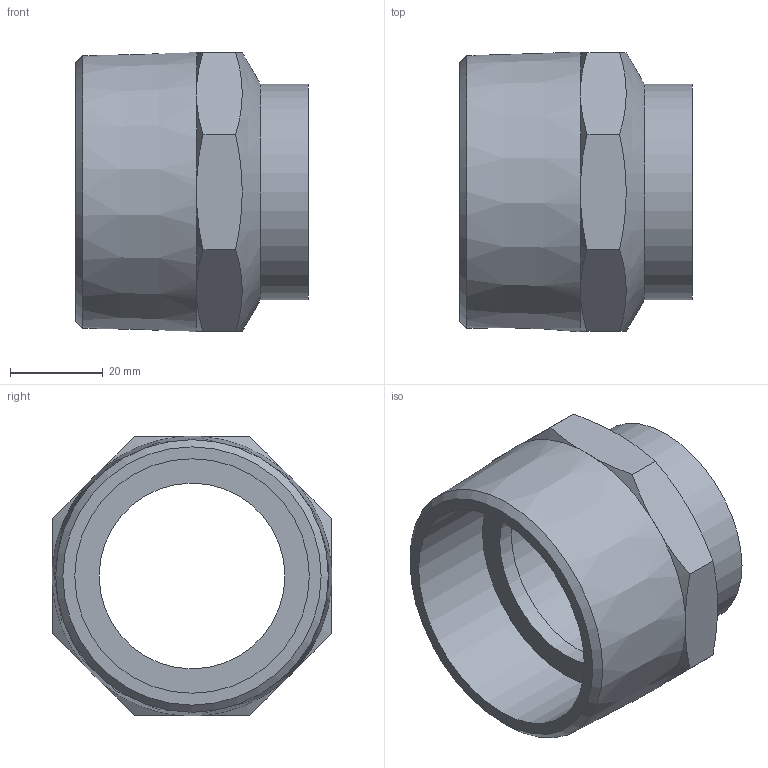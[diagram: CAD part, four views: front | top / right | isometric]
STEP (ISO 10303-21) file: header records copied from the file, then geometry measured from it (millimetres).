
FILE_DESCRIPTION((''),'2;1');
FILE_NAME('\\Lg50001\Groups\SANHA Legnica\Engineering\Public\RYSUNKI\SANHA POLSKA\4243G\step\14243_42-2(2).stp','2008-08-26T10:41:49',('pajchrowski'),(''),'Autodesk Inventor 2008','Autodesk Inventor 2008','');
FILE_SCHEMA(('AUTOMOTIVE_DESIGN { 1 0 10303 214 1 1 1 1 }'));
Length unit declared in the file: millimetre
Products named in the file (1): 14243_42-2(2)
Bounding box: 50 x 60.23 x 60.22 mm (x, y, z)
Volume: 46444.4 mm3; surface area: 18593.5 mm2
Topology: 1 solids, 1 shells, 35 faces, 75 edges, 44 vertices
Faces by surface type: plane 20, cone 11, cylinder 4
Full cylindrical faces by diameter (mm): 40 x1, 42 x1, 46.5 x1, 50.5 x1
Entity records: 884 total; most frequent: CARTESIAN_POINT 192, DIRECTION 140, ORIENTED_EDGE 132, EDGE_CURVE 66, AXIS2_PLACEMENT_3D 62, EDGE_LOOP 46, VERTEX_POINT 42, FACE_OUTER_BOUND 35
